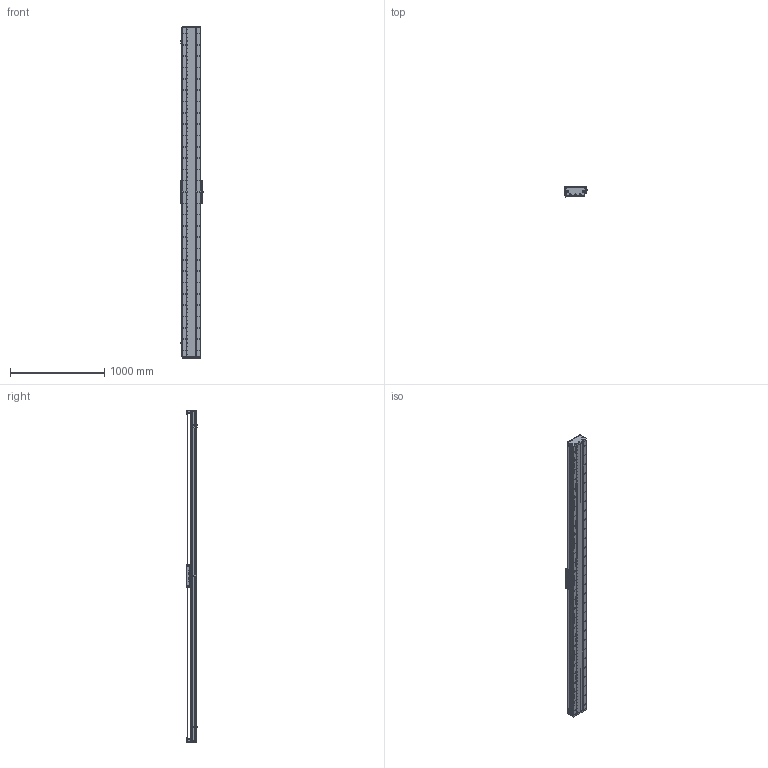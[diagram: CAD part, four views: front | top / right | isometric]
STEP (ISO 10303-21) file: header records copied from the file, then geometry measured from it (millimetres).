
FILE_DESCRIPTION (( 'STEP AP203' ), '1' );
FILE_NAME ('DA-C195-C3-T3180-C010-0.2 眻盄萇儂.STEP', '2025-08-15T01:27:27', ( '' ), ( '' ), 'SwSTEP 2.0', 'SolidWorks 2019', '' );
FILE_SCHEMA (( 'CONFIG_CONTROL_DESIGN' ));
Length unit declared in the file: millimetre
Products named in the file (15): DA195詩湍郪璃; DA165-GYP-00 光电感应片(默认); CU195-C3賑輸-俋楷; DA195詩湍嶺輸; LMT黍杅芛; DA-C195-GD-DB-H-00 傷啣; 葩璃 DA95-GT-T-00; DA95-HXJ-00 遣喳砎蝶; DA-C195-C3-T3180-C010-0.2 眻盄萇儂; DA195詩湍菜輸; DA195詩湍裔啣; PM-T45ㄗ侂狟ㄘ; IU-CU195-L-00 菁釱(L3480); MS200 棠掑喜S315-T240; IU-CU195-L 菁釱絳寢
Assembly tree (29 placements, depth 3):
  DA-C195-C3-T3180-C010-0.2 眻盄萇儂
    DA195詩湍郪璃
      DA195詩湍菜輸  x2
      DA195詩湍裔啣
      DA195詩湍嶺輸  x2
      DA95-HXJ-00 遣喳砎蝶  x8
      DA-C195-GD-DB-H-00 傷啣  x2
    IU-CU195-L 菁釱絳寢
      IU-CU195-L-00 菁釱(L3480)
      葩璃 DA95-GT-T-00  x4
    LMT黍杅芛
    MS200 棠掑喜S315-T240
    PM-T45ㄗ侂狟ㄘ  x3
    DA165-GYP-00 光电感应片(默认)
    CU195-C3賑輸-俋楷
Bounding box: 248 x 115.45 x 3520 mm (x, y, z)
Volume: 19961633.6 mm3; surface area: 5927490.7 mm2
Topology: 86 solids, 118 shells, 4694 faces, 13575 edges, 8609 vertices
Faces by surface type: cylinder 2714, plane 1378, cone 514, torus 52, sphere 36
Entity records: 158195 total; most frequent: CARTESIAN_POINT 45128, ORIENTED_EDGE 24066, DIRECTION 22502, EDGE_CURVE 12033, AXIS2_PLACEMENT_3D 8473, VERTEX_POINT 7811, VECTOR 5556, LINE 5556
